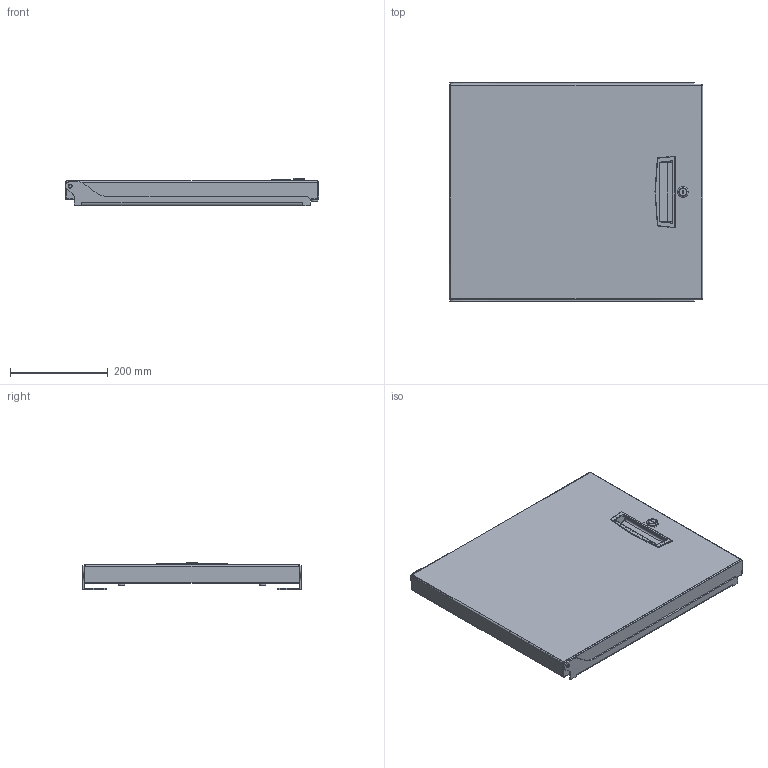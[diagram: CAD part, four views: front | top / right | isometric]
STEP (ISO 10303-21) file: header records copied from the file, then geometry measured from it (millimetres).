
FILE_DESCRIPTION((''),'2;1');
FILE_NAME('ADO-5-8_ASM','2023-12-28T',('mrodri2d'),('Middle Atlantic Products'),'CREO PARAMETRIC BY PTC INC, 2018360','CREO PARAMETRIC BY PTC INC, 2018360','');
FILE_SCHEMA(('CONFIG_CONTROL_DESIGN'));
Length unit declared in the file: inch
Products named in the file (13): P58D; 500-00769; 500-00069; SC-1_125; LOCKCLIP; 80-050; B5DB_1; 85-009-1; P5DB1_ASM; B5DB_2; P5DB2_ASM; 91-036; ADO-5-8_ASM
Assembly tree (14 placements, depth 3):
  ADO-5-8_ASM
    P58D
    500-00769
    500-00069
    SC-1_125
    LOCKCLIP
    80-050  x2
    P5DB1_ASM
      B5DB_1
      85-009-1
    P5DB2_ASM
      B5DB_2
      85-009-1
    91-036
Bounding box: 517.52 x 446.89 x 55.73 mm (x, y, z)
Volume: 662210.4 mm3; surface area: 770381.2 mm2
Topology: 11 solids, 22 shells, 692 faces, 1753 edges, 1088 vertices
Faces by surface type: plane 321, cylinder 254, bspline 45, torus 38, sphere 19, cone 15
Entity records: 25502 total; most frequent: CARTESIAN_POINT 9585, ORIENTED_EDGE 3295, DIRECTION 3126, EDGE_CURVE 1677, AXIS2_PLACEMENT_3D 1080, VERTEX_POINT 1053, VECTOR 966, LINE 966
